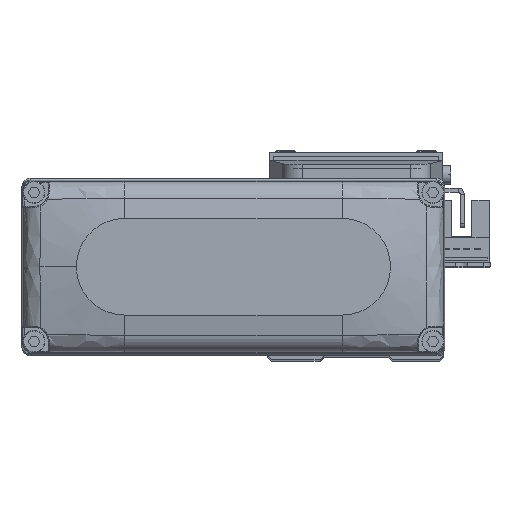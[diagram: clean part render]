
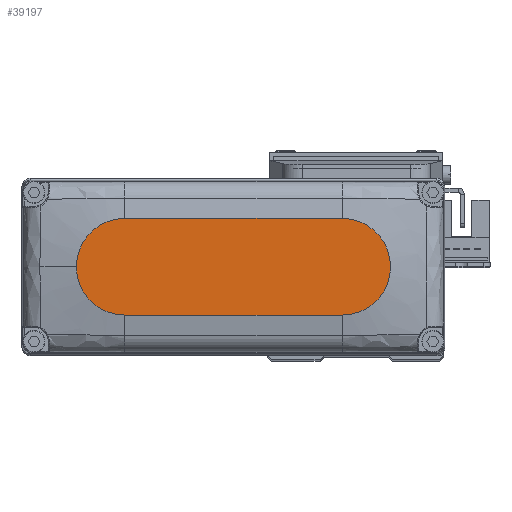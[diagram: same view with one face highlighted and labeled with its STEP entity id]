
A CAD part, top view. The second image highlights one B-rep face of the part: STEP entity #39197.
In plain terms, the highlighted planar face has unit normal (0, 0, 1).
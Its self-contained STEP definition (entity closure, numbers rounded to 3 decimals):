
#378 = DIRECTION ( 'NONE',  ( 1., 0., 0. ) ) ;
#812 = AXIS2_PLACEMENT_3D ( 'NONE', #70140, #16351, #40303 ) ;
#2767 = EDGE_CURVE ( 'NONE', #28089, #38007, #30217, .T. ) ;
#3605 = ORIENTED_EDGE ( 'NONE', *, *, #76547, .T. ) ;
#4316 = AXIS2_PLACEMENT_3D ( 'NONE', #39469, #63403, #9645 ) ;
#4593 = PLANE ( 'NONE',  #22814 ) ;
#6930 = EDGE_LOOP ( 'NONE', ( #3605, #9420, #10650, #75836, #74532 ) ) ;
#7555 = LINE ( 'NONE', #31490, #10998 ) ;
#9243 = VECTOR ( 'NONE', #378, 1000. ) ;
#9420 = ORIENTED_EDGE ( 'NONE', *, *, #14743, .T. ) ;
#9645 = DIRECTION ( 'NONE',  ( 1., 0., 0. ) ) ;
#10650 = ORIENTED_EDGE ( 'NONE', *, *, #2767, .T. ) ;
#10998 = VECTOR ( 'NONE', #55402, 1000. ) ;
#14743 = EDGE_CURVE ( 'NONE', #57658, #28089, #34660, .T. ) ;
#16351 = DIRECTION ( 'NONE',  ( 0., 0., 1. ) ) ;
#16588 = CARTESIAN_POINT ( 'NONE',  ( -27., -12., 25. ) ) ;
#21651 = CARTESIAN_POINT ( 'NONE',  ( 27., 12., 25. ) ) ;
#22141 = DIRECTION ( 'NONE',  ( 0., 0., 1. ) ) ;
#22814 = AXIS2_PLACEMENT_3D ( 'NONE', #28555, #52480, #76423 ) ;
#24598 = AXIS2_PLACEMENT_3D ( 'NONE', #75890, #22141, #46089 ) ;
#24795 = EDGE_CURVE ( 'NONE', #38007, #57948, #38129, .T. ) ;
#25628 = CARTESIAN_POINT ( 'NONE',  ( 27., -12., 25. ) ) ;
#28089 = VERTEX_POINT ( 'NONE', #16588 ) ;
#28555 = CARTESIAN_POINT ( 'NONE',  ( 0., 0., 25. ) ) ;
#30217 = LINE ( 'NONE', #54127, #9243 ) ;
#31490 = CARTESIAN_POINT ( 'NONE',  ( -27., 12., 25. ) ) ;
#34660 = CIRCLE ( 'NONE', #812, 12. ) ;
#38007 = VERTEX_POINT ( 'NONE', #25628 ) ;
#38129 = CIRCLE ( 'NONE', #4316, 12. ) ;
#39197 = ADVANCED_FACE ( 'NONE', ( #58352 ), #4593, .T. ) ;
#39469 = CARTESIAN_POINT ( 'NONE',  ( 27., 0., 25. ) ) ;
#40303 = DIRECTION ( 'NONE',  ( 1., 0., 0. ) ) ;
#46089 = DIRECTION ( 'NONE',  ( 1., 0., 0. ) ) ;
#52480 = DIRECTION ( 'NONE',  ( 0., 0., 1. ) ) ;
#54127 = CARTESIAN_POINT ( 'NONE',  ( -27., -12., 25. ) ) ;
#55402 = DIRECTION ( 'NONE',  ( -1., 0., 0. ) ) ;
#55422 = CARTESIAN_POINT ( 'NONE',  ( -27., 12., 25. ) ) ;
#57658 = VERTEX_POINT ( 'NONE', #55422 ) ;
#57726 = VERTEX_POINT ( 'NONE', #21651 ) ;
#57948 = VERTEX_POINT ( 'NONE', #66710 ) ;
#58352 = FACE_OUTER_BOUND ( 'NONE', #6930, .T. ) ;
#58438 = CIRCLE ( 'NONE', #24598, 12. ) ;
#63403 = DIRECTION ( 'NONE',  ( 0., 0., 1. ) ) ;
#66710 = CARTESIAN_POINT ( 'NONE',  ( 39., 0., 25. ) ) ;
#67781 = EDGE_CURVE ( 'NONE', #57948, #57726, #58438, .T. ) ;
#70140 = CARTESIAN_POINT ( 'NONE',  ( -27., 0., 25. ) ) ;
#74532 = ORIENTED_EDGE ( 'NONE', *, *, #67781, .T. ) ;
#75836 = ORIENTED_EDGE ( 'NONE', *, *, #24795, .T. ) ;
#75890 = CARTESIAN_POINT ( 'NONE',  ( 27., 0., 25. ) ) ;
#76423 = DIRECTION ( 'NONE',  ( 1., 0., 0. ) ) ;
#76547 = EDGE_CURVE ( 'NONE', #57726, #57658, #7555, .T. ) ;
